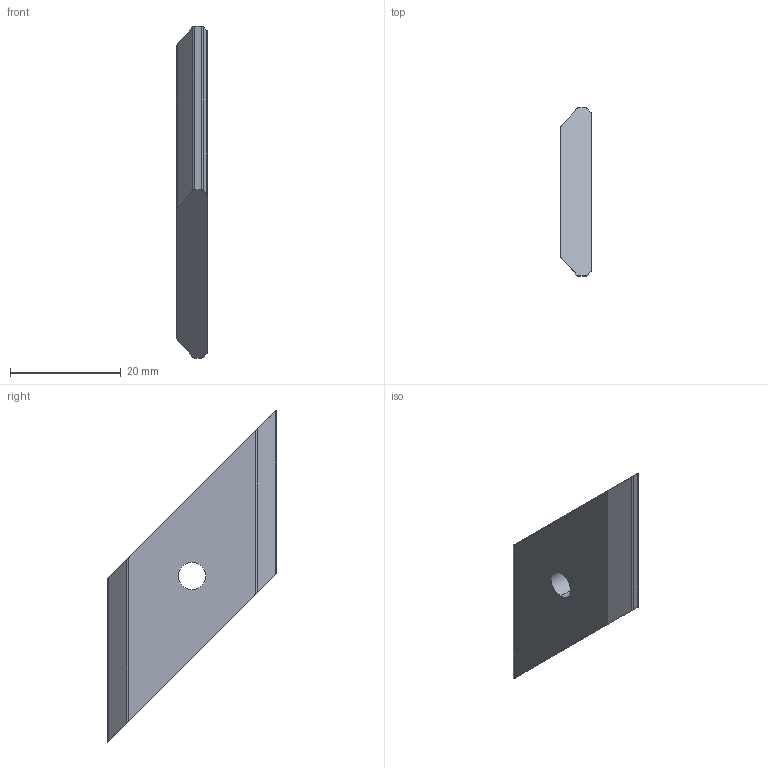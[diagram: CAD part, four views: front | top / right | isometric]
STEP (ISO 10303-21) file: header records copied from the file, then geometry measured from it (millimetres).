
FILE_DESCRIPTION (( 'STEP AP214' ), '1' );
FILE_NAME ('ECQA 45 M6.step', '2017-04-05T07:36:10', ( '' ), ( '' ), 'SwSTEP 2.0', 'SolidWorks 2015', '' );
FILE_SCHEMA (( 'AUTOMOTIVE_DESIGN' ));
Length unit declared in the file: millimetre
Products named in the file (1): ECQA 45 M6
Bounding box: 5.6 x 30.4 x 60 mm (x, y, z)
Volume: 4583.9 mm3; surface area: 2478.9 mm2
Topology: 1 solids, 1 shells, 20 faces, 54 edges, 36 vertices
Faces by surface type: cylinder 10, plane 10
Entity records: 682 total; most frequent: CARTESIAN_POINT 159, ORIENTED_EDGE 108, DIRECTION 84, EDGE_CURVE 54, VERTEX_POINT 36, VECTOR 34, LINE 34, AXIS2_PLACEMENT_3D 25
